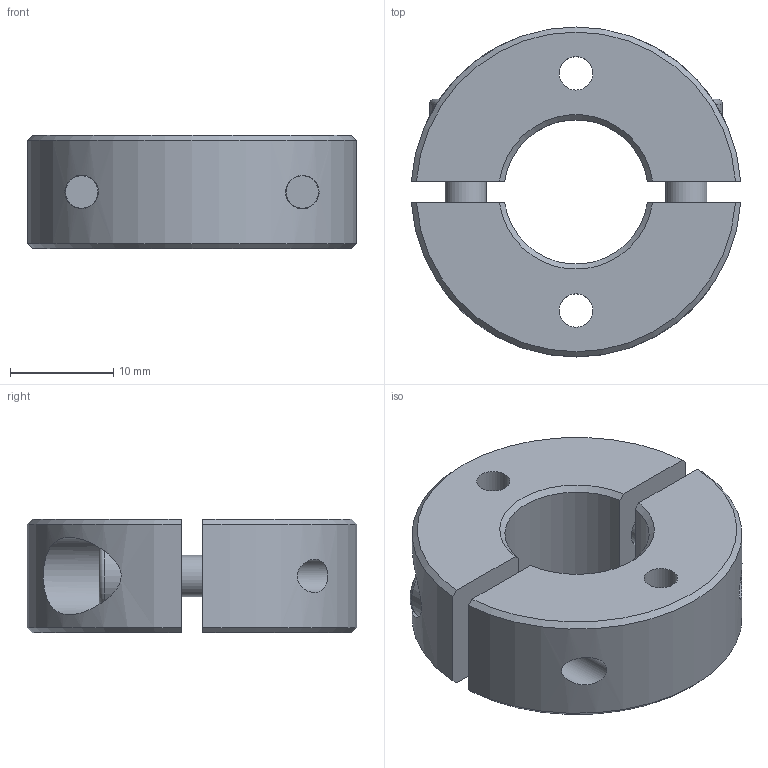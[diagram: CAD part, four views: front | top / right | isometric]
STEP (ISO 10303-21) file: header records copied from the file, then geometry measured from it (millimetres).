
FILE_DESCRIPTION( ( 'STEP AP203' ), '1' );
FILE_NAME( 'C:/Temp/Ganter_Step_05_03_2020/data/3_2/gn7072_2/Split Stainless Steel-Set collar GN 7072.2-32-B14-NI-C.stp', '2020-03-13T05:41:04', ( 'License CC BY-ND 4.0' ), ( 'CADENAS' ), ' ', 'PARTsolutions', ' ' );
FILE_SCHEMA( ( 'CONFIG_CONTROL_DESIGN' ) );
Length unit declared in the file: millimetre
Products named in the file (1): _Split Stainless Steel-Set collar GN 7072.2-32-B14-NI-C
Bounding box: 31.93 x 32 x 11 mm (x, y, z)
Volume: 6124.8 mm3; surface area: 4052.7 mm2
Topology: 1 solids, 1 shells, 58 faces, 136 edges, 92 vertices
Faces by surface type: plane 30, cylinder 16, cone 10, torus 2
Full cylindrical faces by diameter (mm): 3.242 x4, 4 x2, 4.4 x2, 7 x2, 7.5 x2
Entity records: 1836 total; most frequent: CARTESIAN_POINT 555, DIRECTION 250, ORIENTED_EDGE 224, EDGE_CURVE 112, AXIS2_PLACEMENT_3D 99, EDGE_LOOP 92, VERTEX_POINT 84, FACE_OUTER_BOUND 72
